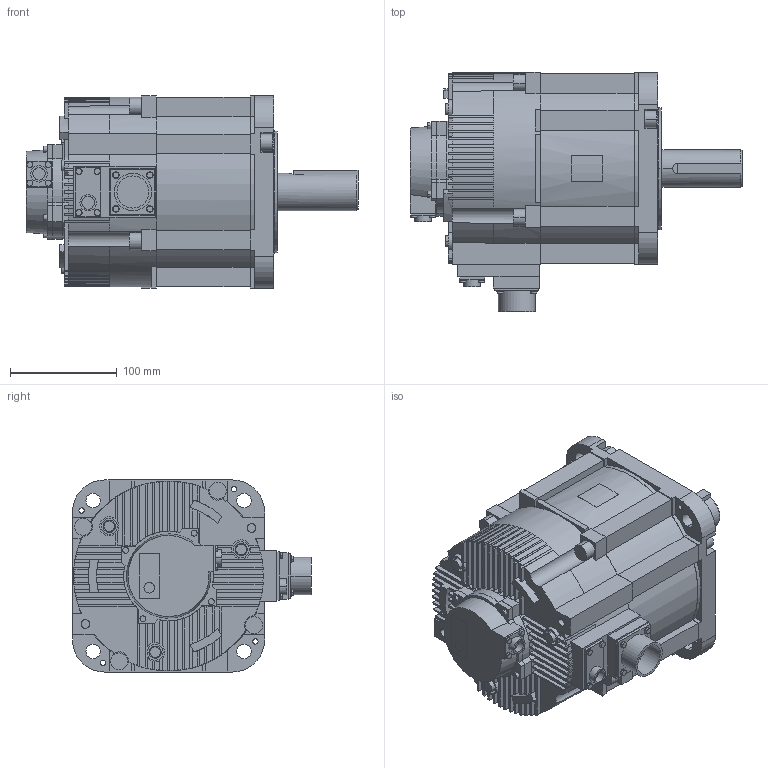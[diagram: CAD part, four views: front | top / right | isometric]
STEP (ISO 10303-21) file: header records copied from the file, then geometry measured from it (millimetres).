
FILE_DESCRIPTION( (''), '2;1');
FILE_NAME ('SGMXG-44AUA6CC2.stp','2022-03-02T11:34:02',(''),(''),'spGate 15.6.6','','');
FILE_SCHEMA (('AUTOMOTIVE_DESIGN'));
Length unit declared in the file: millimetre
Products named in the file (3): Assembly; SGMXG-44AUA6CC2-prt0; SGMXG-44AUA6CC2-prt1
Assembly tree (2 placements, depth 2):
  Assembly
    SGMXG-44AUA6CC2-prt0
    SGMXG-44AUA6CC2-prt1
Bounding box: 311.2 x 224 x 180 mm (x, y, z)
Volume: 5502544.6 mm3; surface area: 273293.4 mm2
Topology: 2 solids, 2 shells, 848 faces, 2305 edges, 1528 vertices
Faces by surface type: plane 550, cylinder 242, bspline 56
Entity records: 45249 total; most frequent: CARTESIAN_POINT 5457, ORIENTED_EDGE 4610, DIRECTION 4464, COLOUR_RGB 3155, PRESENTATION_STYLE_ASSIGNMENT 3155, STYLED_ITEM 3155, EDGE_CURVE 2305, DRAUGHTING_PRE_DEFINED_CURVE_FONT 2305
